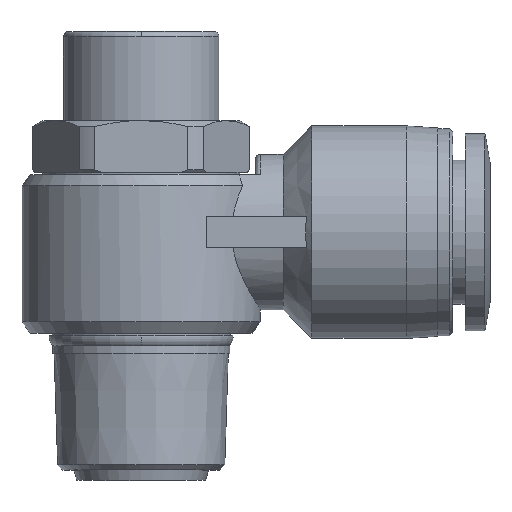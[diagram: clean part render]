
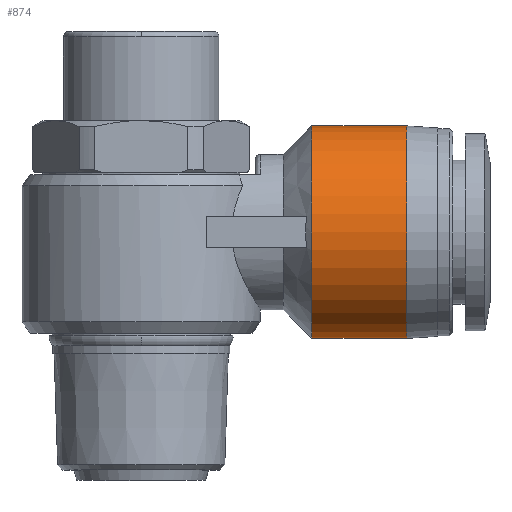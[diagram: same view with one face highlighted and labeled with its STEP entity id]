
A CAD part, top view. The second image highlights one B-rep face of the part: STEP entity #874.
In plain terms, the highlighted cylindrical face has radius 10.25 mm (diameter 20.5 mm), a partial arc.
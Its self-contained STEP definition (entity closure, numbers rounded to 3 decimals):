
#134 = EDGE_CURVE ( 'NONE', #1410, #2913, #2179, .T. ) ;
#308 = DIRECTION ( 'NONE',  ( -1., 0., 0. ) ) ;
#352 = VERTEX_POINT ( 'NONE', #713 ) ;
#423 = EDGE_LOOP ( 'NONE', ( #2850, #3096, #3115, #1369 ) ) ;
#451 = AXIS2_PLACEMENT_3D ( 'NONE', #2401, #990, #2075 ) ;
#469 = DIRECTION ( 'NONE',  ( -1., 0., 0. ) ) ;
#477 = CARTESIAN_POINT ( 'NONE',  ( 16.45, 11.8, 0. ) ) ;
#592 = CIRCLE ( 'NONE', #668, 10.25 ) ;
#668 = AXIS2_PLACEMENT_3D ( 'NONE', #3445, #308, #4096 ) ;
#682 = CARTESIAN_POINT ( 'NONE',  ( 16.45, 32.3, 0. ) ) ;
#713 = CARTESIAN_POINT ( 'NONE',  ( 25.6, 32.3, 0. ) ) ;
#720 = EDGE_CURVE ( 'NONE', #352, #1262, #4124, .T. ) ;
#874 = ADVANCED_FACE ( 'NONE', ( #1914 ), #1567, .T. ) ;
#990 = DIRECTION ( 'NONE',  ( -1., 0., 0. ) ) ;
#1262 = VERTEX_POINT ( 'NONE', #682 ) ;
#1369 = ORIENTED_EDGE ( 'NONE', *, *, #134, .F. ) ;
#1410 = VERTEX_POINT ( 'NONE', #1525 ) ;
#1525 = CARTESIAN_POINT ( 'NONE',  ( 25.6, 11.8, 0. ) ) ;
#1567 = CYLINDRICAL_SURFACE ( 'NONE', #2152, 10.25 ) ;
#1662 = DIRECTION ( 'NONE',  ( -1., 0., 0. ) ) ;
#1844 = VECTOR ( 'NONE', #1662, 1000. ) ;
#1914 = FACE_OUTER_BOUND ( 'NONE', #423, .T. ) ;
#1987 = CIRCLE ( 'NONE', #451, 10.25 ) ;
#2075 = DIRECTION ( 'NONE',  ( 0., -1., 0. ) ) ;
#2152 = AXIS2_PLACEMENT_3D ( 'NONE', #2207, #469, #3576 ) ;
#2179 = LINE ( 'NONE', #3036, #2921 ) ;
#2207 = CARTESIAN_POINT ( 'NONE',  ( 21.025, 22.05, 0. ) ) ;
#2401 = CARTESIAN_POINT ( 'NONE',  ( 25.6, 22.05, 0. ) ) ;
#2551 = EDGE_CURVE ( 'NONE', #2913, #1262, #592, .T. ) ;
#2609 = EDGE_CURVE ( 'NONE', #1410, #352, #1987, .T. ) ;
#2850 = ORIENTED_EDGE ( 'NONE', *, *, #2609, .T. ) ;
#2913 = VERTEX_POINT ( 'NONE', #477 ) ;
#2921 = VECTOR ( 'NONE', #4040, 1000. ) ;
#3036 = CARTESIAN_POINT ( 'NONE',  ( 21.025, 11.8, 0. ) ) ;
#3096 = ORIENTED_EDGE ( 'NONE', *, *, #720, .T. ) ;
#3115 = ORIENTED_EDGE ( 'NONE', *, *, #2551, .F. ) ;
#3445 = CARTESIAN_POINT ( 'NONE',  ( 16.45, 22.05, 0. ) ) ;
#3576 = DIRECTION ( 'NONE',  ( 0., -1., 0. ) ) ;
#3789 = CARTESIAN_POINT ( 'NONE',  ( 21.025, 32.3, 0. ) ) ;
#4040 = DIRECTION ( 'NONE',  ( -1., 0., 0. ) ) ;
#4096 = DIRECTION ( 'NONE',  ( 0., -1., 0. ) ) ;
#4124 = LINE ( 'NONE', #3789, #1844 ) ;
